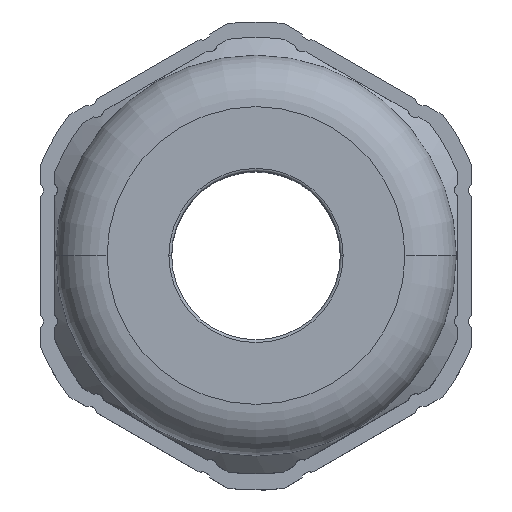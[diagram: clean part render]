
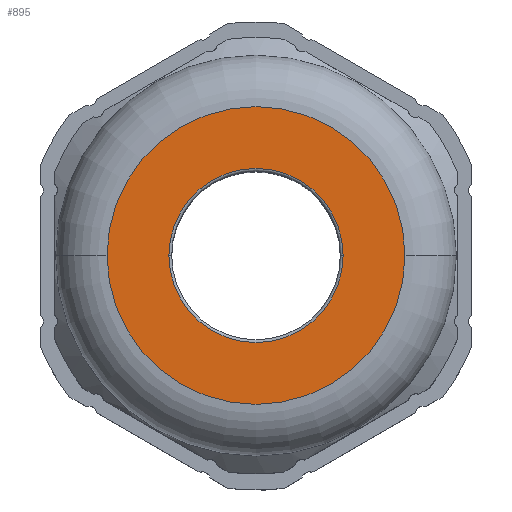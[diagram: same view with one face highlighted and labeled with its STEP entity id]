
A CAD part, top view. The second image highlights one B-rep face of the part: STEP entity #895.
In plain terms, the highlighted planar face has unit normal (0, 0, 1).
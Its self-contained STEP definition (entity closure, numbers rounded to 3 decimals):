
#895 = ADVANCED_FACE ( 'NONE', ( #2787, #2786 ), #2781, .T. ) ;
#945 = EDGE_LOOP ( 'NONE', ( #946, #947 ) ) ;
#946 = ORIENTED_EDGE ( 'NONE', *, *, #1071, .T. ) ;
#947 = ORIENTED_EDGE ( 'NONE', *, *, #948, .T. ) ;
#948 = EDGE_CURVE ( 'NONE', #1083, #1082, #2710, .T. ) ;
#949 = EDGE_LOOP ( 'NONE', ( #950, #951 ) ) ;
#950 = ORIENTED_EDGE ( 'NONE', *, *, #1058, .F. ) ;
#951 = ORIENTED_EDGE ( 'NONE', *, *, #1623, .F. ) ;
#968 = VERTEX_POINT ( 'NONE', #2626 ) ;
#1058 = EDGE_CURVE ( 'NONE', #1084, #968, #2960, .T. ) ;
#1071 = EDGE_CURVE ( 'NONE', #1082, #1083, #2990, .T. ) ;
#1082 = VERTEX_POINT ( 'NONE', #3029 ) ;
#1083 = VERTEX_POINT ( 'NONE', #3028 ) ;
#1084 = VERTEX_POINT ( 'NONE', #3027 ) ;
#1623 = EDGE_CURVE ( 'NONE', #968, #1084, #3963, .T. ) ;
#2626 = CARTESIAN_POINT ( 'NONE',  ( 15.9, 0., 45.5 ) ) ;
#2706 = DIRECTION ( 'NONE',  ( -1., 0., 0. ) ) ;
#2707 = DIRECTION ( 'NONE',  ( 0., 0., -1. ) ) ;
#2708 = CARTESIAN_POINT ( 'NONE',  ( 0., 0., 45.5 ) ) ;
#2709 = AXIS2_PLACEMENT_3D ( 'NONE', #2708, #2707, #2706 ) ;
#2710 = CIRCLE ( 'NONE', #2709, 9.3 ) ;
#2776 = DIRECTION ( 'NONE',  ( 1., 0., 0. ) ) ;
#2777 = DIRECTION ( 'NONE',  ( 0., 0., 1. ) ) ;
#2778 = CARTESIAN_POINT ( 'NONE',  ( 0., 15.9, 45.5 ) ) ;
#2779 = AXIS2_PLACEMENT_3D ( 'NONE', #2778, #2777, #2776 ) ;
#2781 = PLANE ( 'NONE',  #2779 ) ;
#2786 = FACE_OUTER_BOUND ( 'NONE', #949, .T. ) ;
#2787 = FACE_BOUND ( 'NONE', #945, .T. ) ;
#2956 = DIRECTION ( 'NONE',  ( -1., 0., 0. ) ) ;
#2957 = DIRECTION ( 'NONE',  ( 0., 0., -1. ) ) ;
#2958 = CARTESIAN_POINT ( 'NONE',  ( 0., 0., 45.5 ) ) ;
#2959 = AXIS2_PLACEMENT_3D ( 'NONE', #2958, #2957, #2956 ) ;
#2960 = CIRCLE ( 'NONE', #2959, 15.9 ) ;
#2987 = DIRECTION ( 'NONE',  ( -1., 0., 0. ) ) ;
#2988 = DIRECTION ( 'NONE',  ( 0., 0., -1. ) ) ;
#2989 = AXIS2_PLACEMENT_3D ( 'NONE', #2996, #2988, #2987 ) ;
#2990 = CIRCLE ( 'NONE', #2989, 9.3 ) ;
#2996 = CARTESIAN_POINT ( 'NONE',  ( 0., 0., 45.5 ) ) ;
#3027 = CARTESIAN_POINT ( 'NONE',  ( -15.9, 0., 45.5 ) ) ;
#3028 = CARTESIAN_POINT ( 'NONE',  ( 9.3, 0., 45.5 ) ) ;
#3029 = CARTESIAN_POINT ( 'NONE',  ( -9.3, 0., 45.5 ) ) ;
#3959 = DIRECTION ( 'NONE',  ( -1., 0., 0. ) ) ;
#3960 = DIRECTION ( 'NONE',  ( 0., 0., -1. ) ) ;
#3961 = CARTESIAN_POINT ( 'NONE',  ( 0., 0., 45.5 ) ) ;
#3962 = AXIS2_PLACEMENT_3D ( 'NONE', #3961, #3960, #3959 ) ;
#3963 = CIRCLE ( 'NONE', #3962, 15.9 ) ;
